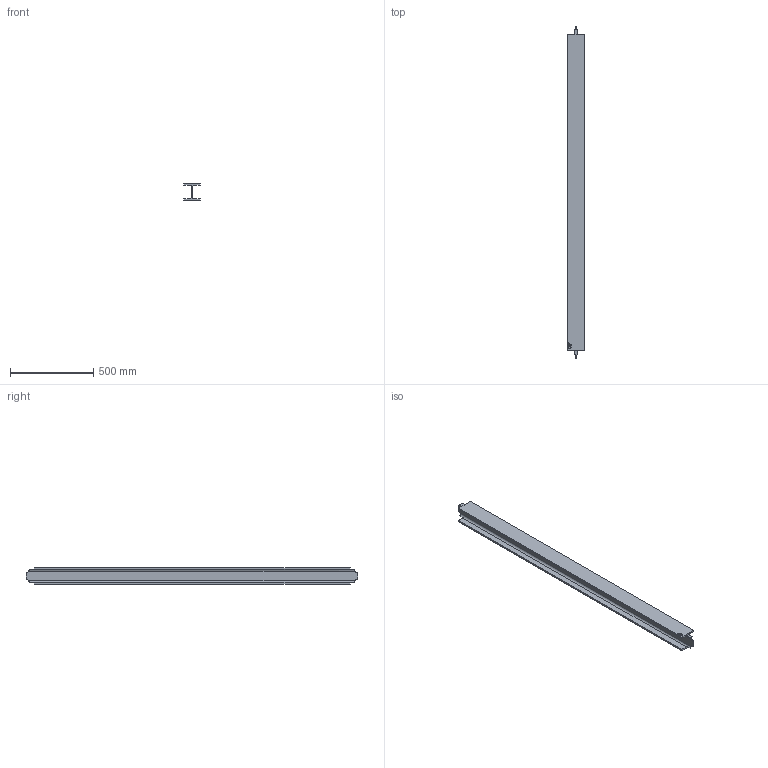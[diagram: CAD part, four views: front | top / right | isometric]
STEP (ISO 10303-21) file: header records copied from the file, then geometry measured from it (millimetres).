
FILE_DESCRIPTION (( 'STEP AP214' ), '1' );
FILE_NAME ('CCJ029-REP.057 - POUTRE SUPERIEURE A1-B1.STEP', '2025-02-13T09:30:59', ( '' ), ( '' ), 'SwSTEP 2.0', 'SolidWorks 2021', '' );
FILE_SCHEMA (( 'AUTOMOTIVE_DESIGN' ));
Length unit declared in the file: millimetre
Products named in the file (1): CCJ029-REP.057 - POUTRE SUPERIEURE A1-B1
Bounding box: 100 x 1988.5 x 100 mm (x, y, z)
Volume: 4966131.9 mm3; surface area: 1094130.8 mm2
Topology: 1 solids, 1 shells, 63 faces, 171 edges, 114 vertices
Faces by surface type: plane 38, bspline 17, cylinder 8
Entity records: 3333 total; most frequent: CARTESIAN_POINT 1822, ORIENTED_EDGE 342, DIRECTION 239, EDGE_CURVE 171, VERTEX_POINT 114, LINE 113, VECTOR 113, EDGE_LOOP 67
